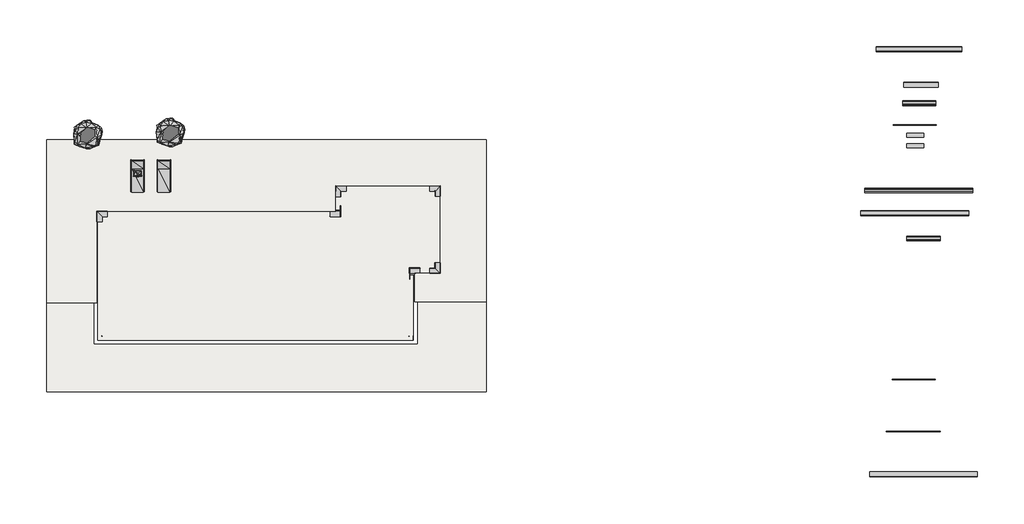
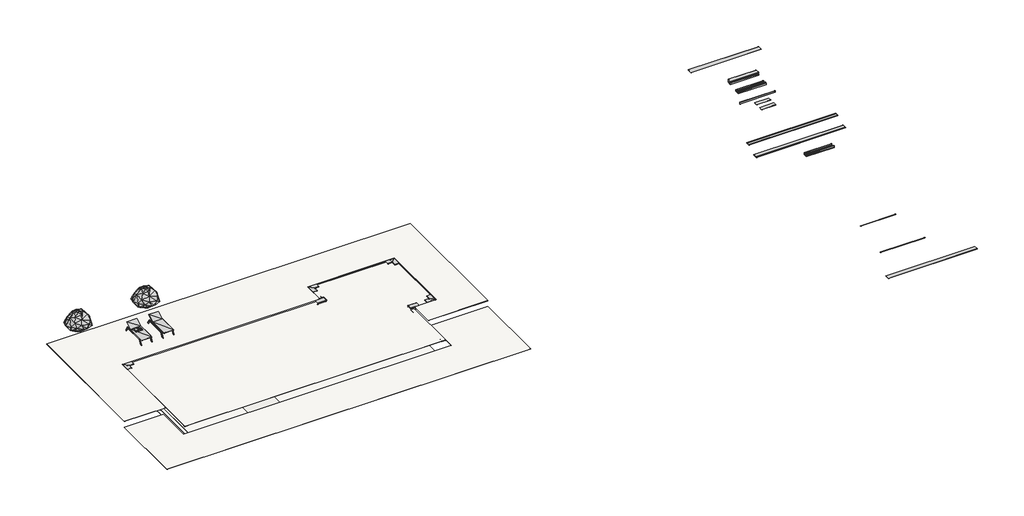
# One storey, incomplete: 28 proxies, 12 slabs, 5 geographic elements.
"""IFC4 building model written with IfcOpenShell, lengths in millimetres."""

from ifc_helpers import new_model, si_unit, point, frame, frame_2d, origin, place, context, project, spatial, polyline, circle_curve, trimmed, segment, composite_curve, outline, extrude, faceted_brep, transform, mapped, element, save
from components import generic_models_4fe02839, generic_models_60fd4de7, generic_models_51e0f152, generic_models_03d70148, generic_models_17735d4e, generic_models_f22ee03e, generic_models_8f0458ef, generic_models_db3a6eff, generic_models_d2bb3819, generic_models_d1a6618e, generic_models_a93da772, generic_models_354e1113, generic_models_4be8d311, generic_models_1c02ff2d, generic_models_f3f570df, bloque_rs_953_bce54fbe, bloque_rs_958_1773c589, geographic_element_0adfae54, geographic_element_7e854a61, enscape_assetdefinition_throw_enscape_assetdefinition_throw_fa2a812f

model = new_model("IFC4")

# Units and contexts
model_context = context("Model", 3, world=origin())
ifc_project = project(units=[si_unit("LENGTHUNIT", "METRE", prefix="MILLI")], contexts=[model_context])

# Site, building, storey
site = spatial("IfcSite", under=ifc_project)
building = spatial("IfcBuilding", under=site)
storey = spatial("IfcBuildingStorey", under=building, Name="1_NPlaya", Elevation=0.0)

# Proxies
placement = place(None, origin())
generic_models_shape = generic_models_4fe02839(model_context)
element("IfcBuildingElementProxy", 1, Name="Muestra 2.5m 138 : Muestra 2.5m 138", ObjectType="Muestra 2.5m 138 : Muestra 2.5m 138", at=placement, inside=storey, context=model_context, shape_type="MappedRepresentation", body=[
    mapped(generic_models_shape, transform((-95197.418788, 18845.4376027, 0.0), x_axis=(1.0, 0.0, 0.0), y_axis=(0.0, 1.0, 0.0), z_axis=(0.0, 0.0, 1.0))),
])
generic_models_2_shape = generic_models_60fd4de7(model_context)
element("IfcBuildingElementProxy", 2, Name="Muestra 3.16m 183 : Muestra 3.16m 183", ObjectType="Muestra 3.16m 183 : Muestra 3.16m 183", at=placement, inside=storey, context=model_context, shape_type="MappedRepresentation", body=[
    mapped(generic_models_2_shape, transform((-94781.2011025, 18639.3974306, 0.0), x_axis=(1.0, 0.0, 0.0), y_axis=(0.0, 1.0, 0.0), z_axis=(0.0, 0.0, 1.0))),
])
generic_models_3_shape = generic_models_51e0f152(model_context)
element("IfcBuildingElementProxy", 3, Name="Muestra 1.96m RS941 : Muestra 1.96m RS941", ObjectType="Muestra 1.96m RS941 : Muestra 1.96m RS941", at=placement, inside=storey, context=model_context, shape_type="MappedRepresentation", body=[
    mapped(generic_models_3_shape, transform((-116093.3174169, 16826.2031972, 0.0), x_axis=(1.0, 0.0, 0.0), y_axis=(0.0, 1.0, 0.0), z_axis=(0.0, 0.0, 1.0))),
])
generic_models_4_shape = generic_models_03d70148(model_context)
element("IfcBuildingElementProxy", 4, Name="Muestra 6.32m J62 Anti-Slip : Muestra 6.32m J62 Anti-Slip", ObjectType="Muestra 6.32m J62 Anti-Slip : Muestra 6.32m J62 Anti-Slip", at=placement, inside=storey, context=model_context, shape_type="MappedRepresentation", body=[
    mapped(generic_models_4_shape, transform((-130694.5945817, 15944.6754152, 0.0), x_axis=(1.0, 0.0, 0.0), y_axis=(0.0, 1.0, 0.0), z_axis=(0.0, 0.0, 1.0))),
])
generic_models_5_shape = generic_models_17735d4e(model_context)
element("IfcBuildingElementProxy", 5, Name="Muestra 6.32m I25 Anti-Slip : Muestra 6.32m I25 Anti-Slip", ObjectType="Muestra 6.32m I25 Anti-Slip : Muestra 6.32m I25 Anti-Slip", at=placement, inside=storey, context=model_context, shape_type="MappedRepresentation", body=[
    mapped(generic_models_5_shape, transform((-4.4564989, 67.730036, 0.0), x_axis=(1.0, 0.0, 0.0), y_axis=(0.0, 1.0, 0.0), z_axis=(0.0, 0.0, 1.0))),
])
generic_models_6_shape = generic_models_f22ee03e(model_context)
element("IfcBuildingElementProxy", 6, Name="Muestra 1.00ML_245 V2 Ac-Pl-Ca-Sa : Muestra 1.00ML_245 V2 Ac-Pl-Ca-Sa", ObjectType="Muestra 1.00ML_245 V2 Ac-Pl-Ca-Sa : Muestra 1.00ML_245 V2 Ac-Pl-Ca-Sa", at=placement, inside=storey, context=model_context, shape_type="MappedRepresentation", body=[
    mapped(generic_models_6_shape, transform((-4.4564989, -932.269964, 0.0), x_axis=(1.0, 0.0, 0.0), y_axis=(0.0, 1.0, 0.0), z_axis=(0.0, 0.0, 1.0))),
])
element("IfcBuildingElementProxy", 7, Name="Muestra 1.00m-50piezas_245 V2 Blanco : Muestra 1.00m-50piezas_245 V2 Blanco", ObjectType="Muestra 1.00m-50piezas_245 V2 Blanco : Muestra 1.00m-50piezas_245 V2 Blanco", at=placement, inside=storey, context=model_context, shape_type="MappedRepresentation", body=[
    mapped(generic_models_6_shape, transform((-4.4564989, -332.269964, 0.0), x_axis=(1.0, 0.0, 0.0), y_axis=(0.0, 1.0, 0.0), z_axis=(0.0, 0.0, 1.0))),
])
generic_models_7_shape = generic_models_8f0458ef(model_context)
element("IfcBuildingElementProxy", 8, Name="Muestra 2.5m 971 : Muestra 2.5m 971", ObjectType="Muestra 2.5m 971 : Muestra 2.5m 971", at=placement, inside=storey, context=model_context, shape_type="MappedRepresentation", body=[
    mapped(generic_models_7_shape, transform((-4.4564989, -1132.269964, 0.0), x_axis=(1.0, 0.0, 0.0), y_axis=(0.0, 1.0, 0.0), z_axis=(0.0, 0.0, 1.0))),
])
generic_models_8_shape = generic_models_db3a6eff(model_context)
element("IfcBuildingElementProxy", 9, Name="Muestra 1.96m RS931 : Muestra 1.96m RS931", ObjectType="Muestra 1.96m RS931 : Muestra 1.96m RS931", at=placement, inside=storey, context=model_context, shape_type="MappedRepresentation", body=[
    mapped(generic_models_8_shape, transform((-4.4564989, -3432.269964, 0.0), x_axis=(1.0, 0.0, 0.0), y_axis=(0.0, 1.0, 0.0), z_axis=(0.0, 0.0, 1.0))),
])
generic_models_9_shape = generic_models_d2bb3819(model_context)
element("IfcBuildingElementProxy", 10, Name="Muestra 2.01m RS951 : Muestra 2.01m RS951", ObjectType="Muestra 2.01m RS951 : Muestra 2.01m RS951", at=placement, inside=storey, context=model_context, shape_type="MappedRepresentation", body=[
    mapped(generic_models_9_shape, transform((-84892.2244393, -169.136913, 0.0), x_axis=(1.0, 0.0, 0.0), y_axis=(0.0, 1.0, 0.0), z_axis=(0.0, 0.0, 1.0))),
])
generic_models_10_shape = generic_models_d1a6618e(model_context)
element("IfcBuildingElementProxy", 11, Name="Muestra 6.32m S62 : Muestra 6.32m S62", ObjectType="Muestra 6.32m S62 : Muestra 6.32m S62", at=placement, inside=storey, context=model_context, shape_type="MappedRepresentation", body=[
    mapped(generic_models_10_shape, transform((-53250.8477485, -19.7965416, 0.0), x_axis=(1.0, 0.0, 0.0), y_axis=(0.0, 1.0, 0.0), z_axis=(0.0, 0.0, 1.0))),
])
generic_models_11_shape = generic_models_a93da772(model_context)
element("IfcBuildingElementProxy", 12, Name="Muestra_5 m R49 : Muestra_5 m R49", ObjectType="Muestra_5 m R49 : Muestra_5 m R49", at=placement, inside=storey, context=model_context, shape_type="MappedRepresentation", body=[
    mapped(generic_models_11_shape, transform((-23239.1005263, 48.630554, 0.0), x_axis=(1.0, 0.0, 0.0), y_axis=(0.0, 1.0, 0.0), z_axis=(0.0, 0.0, 1.0))),
])
generic_models_12_shape = generic_models_354e1113(model_context)
element("IfcBuildingElementProxy", 13, Name="ROSA GRES_245 EF : Pieza 245 EF_Tao_Beige_Anti-Slip", ObjectType="ROSA GRES_245 EF : Pieza 245 EF_Tao_Beige_Anti-Slip", at=placement, inside=storey, context=model_context, shape_type="MappedRepresentation", body=[
    mapped(generic_models_12_shape, transform((1871.1007804, 10853.1035327, -347.0), x_axis=(-1.0, 0.0, 0.0), y_axis=(0.0, -1.0, 0.0), z_axis=(0.0, 0.0, 1.0))),
])
element("IfcBuildingElementProxy", 14, Name="ROSA GRES_245 EF : Pieza 245 EF_Tao_Beige_Anti-Slip", ObjectType="ROSA GRES_245 EF : Pieza 245 EF_Tao_Beige_Anti-Slip", at=placement, inside=storey, context=model_context, shape_type="MappedRepresentation", body=[
    mapped(generic_models_12_shape, transform((20360.1007804, 10853.1035327, -347.0), x_axis=(0.0, -1.0, 0.0), y_axis=(1.0, 0.0, 0.0), z_axis=(0.0, 0.0, 1.0))),
])
generic_models_13_shape = generic_models_4be8d311(model_context)
element("IfcBuildingElementProxy", 15, Name="ROSA GRES_E62 : Pieza E62_Tao_Beige_Anti-Slip", ObjectType="ROSA GRES_E62 : Pieza E62_Tao_Beige_Anti-Slip", at=placement, inside=storey, context=model_context, shape_type="MappedRepresentation", body=[
    mapped(generic_models_13_shape, transform((1805.3972649, 18407.8070482, 0.0), x_axis=(0.0, 1.0, 0.0), y_axis=(-1.0, 0.0, 0.0), z_axis=(0.0, 0.0, 1.0))),
])
element("IfcBuildingElementProxy", 16, Name="ROSA GRES_E62 : Pieza E62_Tao_Beige_Anti-Slip", ObjectType="ROSA GRES_E62 : Pieza E62_Tao_Beige_Anti-Slip", at=placement, inside=storey, context=model_context, shape_type="MappedRepresentation", body=[
    mapped(generic_models_13_shape, transform((15792.3972649, 19896.3070482, 0.0), x_axis=(0.0, 1.0, 0.0), y_axis=(-1.0, 0.0, 0.0), z_axis=(0.0, 0.0, 1.0))),
])
element("IfcBuildingElementProxy", 17, Name="ROSA GRES_E62 : Pieza E62_Tao_Beige_Anti-Slip", ObjectType="ROSA GRES_E62 : Pieza E62_Tao_Beige_Anti-Slip", at=placement, inside=storey, context=model_context, shape_type="MappedRepresentation", body=[
    mapped(generic_models_13_shape, transform((21934.8042959, 19898.8070482, 0.0), x_axis=(1.0, 0.0, 0.0), y_axis=(0.0, 1.0, 0.0), z_axis=(0.0, 0.0, 1.0))),
])
element("IfcBuildingElementProxy", 18, Name="ROSA GRES_E62 : Pieza E62_Tao_Beige_Anti-Slip", ObjectType="ROSA GRES_E62 : Pieza E62_Tao_Beige_Anti-Slip", at=placement, inside=storey, context=model_context, shape_type="MappedRepresentation", body=[
    mapped(generic_models_13_shape, transform((21933.3954073, 14769.1035327, 0.0), x_axis=(0.0, -1.0, 0.0), y_axis=(1.0, 0.0, 0.0), z_axis=(0.0, 0.0, 1.0))),
])
generic_models_14_shape = generic_models_1c02ff2d(model_context)
element("IfcBuildingElementProxy", 19, Name="ROSA GRES_ED6 (largo y profundidad) : Pieza ED6_Tao_Beige_Anti-Slip", ObjectType="ROSA GRES_ED6 (largo y profundidad) : Pieza ED6_Tao_Beige_Anti-Slip", at=placement, inside=storey, context=model_context, shape_type="MappedRepresentation", body=[
    mapped(generic_models_14_shape, transform((20111.1007804, 15084.1035327, 0.0), x_axis=(-1.0, 0.0, 0.0), y_axis=(0.0, -1.0, 0.0), z_axis=(0.0, 0.0, 1.0))),
])
element("IfcBuildingElementProxy", 20, Name="ROSA GRES_ED6 (largo y profundidad) : Pieza ED6_Tao_Beige_Anti-Slip", ObjectType="ROSA GRES_ED6 (largo y profundidad) : Pieza ED6_Tao_Beige_Anti-Slip", at=placement, inside=storey, context=model_context, shape_type="MappedRepresentation", body=[
    mapped(generic_models_14_shape, transform((16107.1007804, 18095.8535327, 0.0), x_axis=(1.0, 0.0, 0.0), y_axis=(0.0, 1.0, 0.0), z_axis=(0.0, 0.0, 1.0))),
])
generic_models_15_shape = generic_models_f3f570df(model_context)
element("IfcBuildingElementProxy", 21, Name="ROSA GRES_EJ6 : Pieza EJ6_Tao_Beige_Anti-Slip", ObjectType="ROSA GRES_EJ6 : Pieza EJ6_Tao_Beige_Anti-Slip", at=placement, inside=storey, context=model_context, shape_type="MappedRepresentation", body=[
    mapped(generic_models_15_shape, transform((20124.8547263, 15066.8089058, -241.7191765), x_axis=(-1.0, 0.0, 0.0), y_axis=(0.0, -1.0, 0.0), z_axis=(0.0, 0.0, 1.0))),
])
element("IfcBuildingElementProxy", 22, Name="ROSA GRES_EJ6 : Pieza EJ6_Tao_Beige_Anti-Slip", ObjectType="ROSA GRES_EJ6 : Pieza EJ6_Tao_Beige_Anti-Slip", at=placement, inside=storey, context=model_context, shape_type="MappedRepresentation", body=[
    mapped(generic_models_15_shape, transform((16088.8468344, 18105.8981596, -239.2970849), x_axis=(1.0, 0.0, 0.0), y_axis=(0.0, 1.0, 0.0), z_axis=(0.0, 0.0, 1.0))),
])
bloque_rs_953_shape = bloque_rs_953_bce54fbe(model_context)
element("IfcBuildingElementProxy", 23, Name="ROSA GRES_RS 953 : Bloque RS 953", ObjectType="ROSA GRES_RS 953 : Bloque RS 953", at=placement, inside=storey, context=model_context, shape_type="MappedRepresentation", body=[
    mapped(bloque_rs_953_shape, transform((15804.8061535, 19887.3981596, -227.5), x_axis=(0.0, 1.0, 0.0), y_axis=(-1.0, 0.0, 0.0), z_axis=(0.0, 0.0, 1.0))),
])
element("IfcBuildingElementProxy", 24, Name="ROSA GRES_RS 953 : Bloque RS 953", ObjectType="ROSA GRES_RS 953 : Bloque RS 953", at=placement, inside=storey, context=model_context, shape_type="MappedRepresentation", body=[
    mapped(bloque_rs_953_shape, transform((21914.8042959, 19884.1035327, -227.5), x_axis=(1.0, 0.0, 0.0), y_axis=(0.0, 1.0, 0.0), z_axis=(0.0, 0.0, 1.0))),
])
element("IfcBuildingElementProxy", 25, Name="ROSA GRES_RS 953 : Bloque RS 953", ObjectType="ROSA GRES_RS 953 : Bloque RS 953", at=placement, inside=storey, context=model_context, shape_type="MappedRepresentation", body=[
    mapped(bloque_rs_953_shape, transform((21918.3954073, 14784.1035327, -227.5), x_axis=(0.0, -1.0, 0.0), y_axis=(1.0, 0.0, 0.0), z_axis=(0.0, 0.0, 1.0))),
])
element("IfcBuildingElementProxy", 26, Name="ROSA GRES_RS 953 : Bloque RS 953", ObjectType="ROSA GRES_RS 953 : Bloque RS 953", at=placement, inside=storey, context=model_context, shape_type="MappedRepresentation", body=[
    mapped(bloque_rs_953_shape, transform((1822.8972649, 18393.1035327, -227.5), x_axis=(0.0, 1.0, 0.0), y_axis=(-1.0, 0.0, 0.0), z_axis=(0.0, 0.0, 1.0))),
])
bloque_rs_958_shape = bloque_rs_958_1773c589(model_context)
element("IfcBuildingElementProxy", 27, Name="ROSA GRES_RS 958 : Bloque RS 958", ObjectType="ROSA GRES_RS 958 : Bloque RS 958", at=placement, inside=storey, context=model_context, shape_type="MappedRepresentation", body=[
    mapped(bloque_rs_958_shape, transform((20116.7257804, 15077.8535327, -227.0049113), x_axis=(0.0, -1.0, 0.0), y_axis=(1.0, 0.0, 0.0), z_axis=(0.0, 0.0, 1.0))),
])
element("IfcBuildingElementProxy", 28, Name="ROSA GRES_RS 958 : Bloque RS 958", ObjectType="ROSA GRES_RS 958 : Bloque RS 958", at=placement, inside=storey, context=model_context, shape_type="MappedRepresentation", body=[
    mapped(bloque_rs_958_shape, transform((16100.8507804, 18099.3535327, -227.0049113), x_axis=(0.0, 1.0, 0.0), y_axis=(-1.0, 0.0, 0.0), z_axis=(0.0, 0.0, 1.0))),
])

# Geographic elements
geographic_element_shape = geographic_element_0adfae54(model_context)
element("IfcGeographicElement", 29, ObjectType="Enscape AssetDefinition - Sunbed : Enscape AssetDefinition - Sunbed", at=placement, inside=storey, context=model_context, shape_type="MappedRepresentation", body=[
    mapped(geographic_element_shape, transform((4198.1007804, 20489.5769441, 0.0), x_axis=(1.0, 0.0, 0.0), y_axis=(0.0, 1.0, 0.0), z_axis=(0.0, 0.0, 1.0))),
])
element("IfcGeographicElement", 30, ObjectType="Enscape AssetDefinition - Sunbed : Enscape AssetDefinition - Sunbed", at=placement, inside=storey, context=model_context, shape_type="MappedRepresentation", body=[
    mapped(geographic_element_shape, transform((5740.4593587, 20489.5769441, 0.0), x_axis=(1.0, 0.0, 0.0), y_axis=(0.0, 1.0, 0.0), z_axis=(0.0, 0.0, 1.0))),
])
geographic_element_2_shape = geographic_element_7e854a61(model_context)
element("IfcGeographicElement", 31, ObjectType="Enscape AssetDefinition - Yeg Bush : Enscape AssetDefinition - Yeg Bush", at=placement, inside=storey, context=model_context, shape_type="MappedRepresentation", body=[
    mapped(geographic_element_2_shape, transform((1291.1007804, 22885.8981596, 0.0), x_axis=(1.0, 0.0, 0.0), y_axis=(0.0, 1.0, 0.0), z_axis=(0.0, 0.0, 1.0))),
])
element("IfcGeographicElement", 32, ObjectType="Enscape AssetDefinition - Yeg Bush : Enscape AssetDefinition - Yeg Bush", at=placement, inside=storey, context=model_context, shape_type="MappedRepresentation", body=[
    mapped(geographic_element_2_shape, transform((6131.1007804, 23005.8981596, 0.0), x_axis=(1.0, 0.0, 0.0), y_axis=(0.0, 1.0, 0.0), z_axis=(0.0, 0.0, 1.0))),
])
enscape_assetdefinition_throw_enscape_assetdefinition_throw_shape = enscape_assetdefinition_throw_enscape_assetdefinition_throw_fa2a812f(model_context)
element("IfcGeographicElement", 33, ObjectType="Enscape AssetDefinition - Throw : Enscape AssetDefinition - Throw", at=placement, inside=storey, context=model_context, shape_type="MappedRepresentation", body=[
    mapped(enscape_assetdefinition_throw_enscape_assetdefinition_throw_shape, transform((4205.1007804, 20633.1035327, 380.0), x_axis=(0.0, -1.0, 0.0), y_axis=(1.0, 0.0, 0.0), z_axis=(0.0, 0.0, 1.0))),
])

# Slabs
element("IfcSlab", 34, ObjectType="Pieza 316_Patrón 1/3_Tao_Beige_Anti-Slip", at=placement, inside=storey, context=model_context, shape_type="SweptSolid", body=[
    extrude(outline(polyline([(2150.1273689, 11132.1301212), (2150.1273689, 18063.0769442), (15168.0741918, 18063.0769442), (15168.0741918, 14145.0769441), (20081.0741918, 14145.0769441), (20081.0741918, 11132.1301212), (2150.1273689, 11132.1301212)]), holes=[polyline([(9115.6007804, 17847.6035327), (2365.6007804, 17847.6035327), (2365.6007804, 11347.6035327), (9115.6007804, 11347.6035327), (9115.6007804, 17847.6035327)])]), frame((0.0, 0.0, -1379.0), z_axis=(0.0, 0.0, 1.0), x_axis=(1.0, 0.0, 0.0)), (0.0, 0.0, 1.0), 9.0),
])
element("IfcSlab", 35, ObjectType="Pieza 316_Patrón 1/3_Tao_Beige_Anti-Slip", at=placement, inside=storey, context=model_context, shape_type="SweptSolid", body=[
    extrude(outline(composite_curve([segment(polyline([(15238.1007804, 18097.6035327), (15652.6007804, 18097.6035327), (15652.6007804, 14646.6712241)]), True, "CONTINUOUS"), segment(trimmed(circle_curve(frame_2d((15688.1007804, 14665.1035327)), 40.0), [point((15652.6007804, 14646.6712241))], [point((15669.6684718, 14629.6035327))], True, "CARTESIAN"), True, "CONTINUOUS"), segment(polyline([(15669.6684718, 14629.6035327), (20115.6007804, 14629.6035327), (20115.6007804, 14215.1035327), (15238.1007804, 14215.1035327), (15238.1007804, 18097.6035327)]), True, "CONTINUOUS")], self_intersect=False)), frame((0.0, 0.0, -979.0), z_axis=(0.0, 0.0, 1.0), x_axis=(1.0, 0.0, 0.0)), (0.0, 0.0, 1.0), 9.0),
])
element("IfcSlab", 36, ObjectType="Pieza 316_Patrón 1/3_Tao_Beige_Anti-Slip", at=placement, inside=storey, context=model_context, shape_type="SweptSolid", body=[
    extrude(outline(composite_curve([segment(polyline([(15688.1007804, 18097.6035327), (16063.1007804, 18097.6035327), (16063.1007804, 15077.8505719)]), True, "CONTINUOUS"), segment(trimmed(circle_curve(frame_2d((16127.903559, 15096.9185673)), 67.5498968), [point((16063.1007804, 15077.8505719))], [point((16091.3653543, 15040.1035327))], True, "CARTESIAN"), True, "CONTINUOUS"), segment(polyline([(16091.3653543, 15040.1035327), (20115.6007804, 15040.1035327), (20115.6007804, 14665.1035327), (15688.1007804, 14665.1035327), (15688.1007804, 18097.6035327)]), True, "CONTINUOUS")], self_intersect=False)), frame((0.0, 0.0, -649.0), z_axis=(0.0, 0.0, 1.0), x_axis=(1.0, 0.0, 0.0)), (0.0, 0.0, 1.0), 9.0),
])
element("IfcSlab", 37, ObjectType="Pieza 316_Patrón 1/3_Tao_Beige_Anti-Slip", at=placement, inside=storey, context=model_context, shape_type="SweptSolid", body=[
    extrude(outline(polyline([(20128.6007804, 15080.1035327), (16103.1007804, 15080.1035327), (16103.1007804, 18097.6035327), (16132.1422576, 18097.6035327), (16132.1422576, 19549.5769441), (21585.5741918, 19549.5769441), (21585.5741918, 15109.6330396), (20128.6007804, 15109.6332209), (20128.6007804, 15080.1035327)])), frame((0.0, 0.0, -319.0), z_axis=(0.0, 0.0, 1.0), x_axis=(1.0, 0.0, 0.0)), (0.0, 0.0, 1.0), 9.0),
])
element("IfcSlab", 38, ObjectType="Pieza 316_Patrón 1/3_Tao_Beige_Anti-Slip", at=placement, inside=storey, context=model_context, shape_type="SweptSolid", body=[
    extrude(outline(polyline([(7465.6007804, 16997.6035327), (7465.6007804, 12197.6035327), (3215.6007804, 12197.6035327), (3215.6007804, 16997.6035327), (7465.6007804, 16997.6035327)])), frame((0.0, 0.0, -2229.0), z_axis=(0.0, 0.0, 1.0), x_axis=(1.0, 0.0, 0.0)), (0.0, 0.0, 1.0), 9.0),
])
element("IfcSlab", 39, ObjectType="Pieza 316_Patrón 1/3_Tao_Beige_Anti-Slip", at=placement, inside=storey, context=model_context, shape_type="Brep", body=[
    faceted_brep([(7465.6007804, 16997.6035327, -2230.1240243), (9115.6007804, 17847.6035327, -1380.1240243), (9115.6007804, 11347.6035327, -1380.1240243), (7465.6007804, 12197.6035327, -2230.1240243), (7465.6007804, 16997.6035327, -2220.0), (7465.6007804, 12197.6035327, -2220.0), (9115.6007804, 11347.6035327, -1370.0), (9115.6007804, 17847.6035327, -1370.0)], [[[0, 1, 2, 3]], [[4, 5, 6, 7]], [[1, 0, 4, 7]], [[2, 1, 7, 6]], [[3, 2, 6, 5]], [[0, 3, 5, 4]]]),
])
element("IfcSlab", 40, ObjectType="Pieza 316_Patrón 1/3_Tao_Beige_Anti-Slip", at=placement, inside=storey, context=model_context, shape_type="Brep", body=[
    faceted_brep([(3215.6007804, 12197.6035327, -2232.7279221), (2365.6007804, 11347.6035327, -1382.7279221), (2365.6007804, 17847.6035327, -1382.7279221), (3215.6007804, 16997.6035327, -2232.7279221), (3215.6007804, 12197.6035327, -2220.0), (3215.6007804, 16997.6035327, -2220.0), (2365.6007804, 17847.6035327, -1370.0), (2365.6007804, 11347.6035327, -1370.0)], [[[0, 1, 2, 3]], [[4, 5, 6, 7]], [[1, 0, 4, 7]], [[2, 1, 7, 6]], [[3, 2, 6, 5]], [[0, 3, 5, 4]]]),
])
element("IfcSlab", 41, ObjectType="Pieza 316_Patrón 1/3_Tao_Beige_Anti-Slip", at=placement, inside=storey, context=model_context, shape_type="Brep", body=[
    faceted_brep([(3215.6007804, 16997.6035327, -2232.7279221), (2365.6007804, 17847.6035327, -1382.7279221), (9115.6007804, 17847.6035327, -1382.7279221), (7465.6007804, 16997.6035327, -2232.7279221), (3215.6007804, 16997.6035327, -2220.0), (7465.6007804, 16997.6035327, -2220.0), (9115.6007804, 17847.6035327, -1370.0), (2365.6007804, 17847.6035327, -1370.0)], [[[0, 1, 2, 3]], [[4, 5, 6, 7]], [[1, 0, 4, 7]], [[2, 1, 7, 6]], [[3, 2, 6, 5]], [[0, 3, 5, 4]]]),
])
element("IfcSlab", 42, ObjectType="Pieza 316_Patrón 1/3_Tao_Beige_Anti-Slip", at=placement, inside=storey, context=model_context, shape_type="Brep", body=[
    faceted_brep([(3215.6007804, 12197.6035327, -2232.7279221), (7465.6007804, 12197.6035327, -2232.7279221), (9115.6007804, 11347.6035327, -1382.7279221), (2365.6007804, 11347.6035327, -1382.7279221), (3215.6007804, 12197.6035327, -2220.0), (2365.6007804, 11347.6035327, -1370.0), (9115.6007804, 11347.6035327, -1370.0), (7465.6007804, 12197.6035327, -2220.0)], [[[0, 1, 2, 3]], [[4, 5, 6, 7]], [[0, 3, 5, 4]], [[3, 2, 6, 5]], [[2, 1, 7, 6]], [[1, 0, 4, 7]]]),
])
element("IfcSlab", 43, ObjectType="Pieza 316_Patrón 1/3_Tao_Beige_Liso", at=placement, inside=storey, context=model_context, shape_type="SweptSolid", body=[
    extrude(outline(polyline([(1618.4971093, 10609.4998616), (20604.3277153, 10609.4998616), (20604.3277153, 13102.1035327), (24628.3954073, 13102.1035327), (24628.3954073, 7849.4614241), (-1132.5413282, 7849.4614241), (-1132.5413282, 13042.1035327), (1618.4971093, 13042.1035327), (1618.4971093, 10609.4998616)])), frame((0.0, 0.0, -454.0), z_axis=(0.0, 0.0, 1.0), x_axis=(1.0, 0.0, 0.0)), (0.0, 0.0, 1.0), 9.0),
])
element("IfcSlab", 44, ObjectType="Pieza 316_Patrón 1/3_Tao_Beige_Liso", at=placement, inside=storey, context=model_context, shape_type="SweptSolid", body=[
    extrude(outline(polyline([(-1132.5413282, 22598.8070482), (24628.3954073, 22598.8070482), (24628.3954073, 13097.6035327), (20428.3042959, 13097.6035327), (20428.3042959, 14766.9000172), (21934.8042959, 14766.9000172), (21934.8042959, 19901.3070482), (15789.8972649, 19901.3070482), (15789.8972649, 18410.3070482), (1802.8972649, 18410.3070482), (1802.8972649, 13036.8535327), (-1132.5413282, 13036.8535327), (-1132.5413282, 22598.8070482)])), frame((0.0, 0.0, -9.0), z_axis=(0.0, 0.0, 1.0), x_axis=(1.0, 0.0, 0.0)), (0.0, 0.0, 1.0), 9.0),
])
element("IfcSlab", 45, ObjectType="GENÉRICO_AGUA", at=placement, inside=storey, context=model_context, shape_type="SweptSolid", body=[
    extrude(outline(polyline([(1876.4586718, 18410.1035327), (15792.3972649, 18410.1035327), (15792.3972649, 19901.1035327), (21934.6007804, 19901.1035327), (21934.6007804, 14767.1035327), (20354.742889, 14767.1035327), (20354.742889, 10858.4614241), (1876.4586718, 10858.4614241), (1876.4586718, 18410.1035327)])), frame((0.0, 0.0, -101.0), z_axis=(0.0, 0.0, 1.0), x_axis=(1.0, 0.0, 0.0)), (0.0, 0.0, 1.0), 1.0),
])

save(model, "model.ifc")
